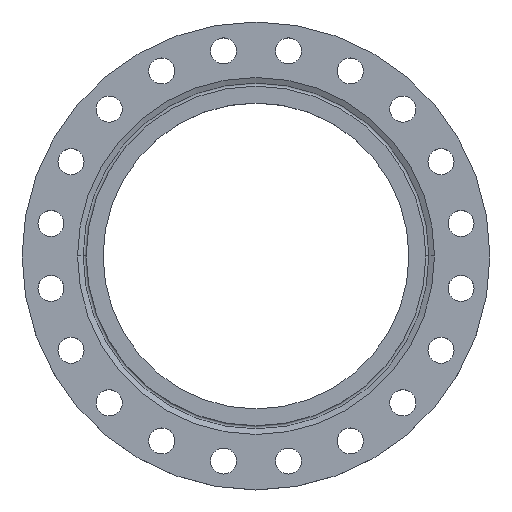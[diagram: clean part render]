
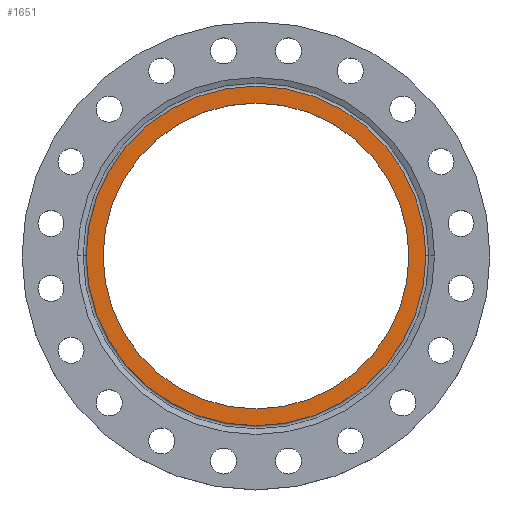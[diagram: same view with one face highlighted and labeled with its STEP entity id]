
A CAD part, top view. The second image highlights one B-rep face of the part: STEP entity #1651.
In plain terms, the highlighted planar face has unit normal (0, 0, 1).
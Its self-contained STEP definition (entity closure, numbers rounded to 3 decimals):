
#36 = DIRECTION ( 'NONE',  ( 0., 0., 1. ) ) ;
#90 = CARTESIAN_POINT ( 'NONE',  ( -274., 0., 0. ) ) ;
#124 = CARTESIAN_POINT ( 'NONE',  ( 0., 0., 0. ) ) ;
#131 = DIRECTION ( 'NONE',  ( -1., 0., 0. ) ) ;
#194 = FACE_OUTER_BOUND ( 'NONE', #426, .T. ) ;
#196 = DIRECTION ( 'NONE',  ( 0., 0., 1. ) ) ;
#243 = CIRCLE ( 'NONE', #256, 246.752 ) ;
#256 = AXIS2_PLACEMENT_3D ( 'NONE', #124, #769, #1418 ) ;
#366 = CARTESIAN_POINT ( 'NONE',  ( 274., 0., 0. ) ) ;
#426 = EDGE_LOOP ( 'NONE', ( #1388, #1341 ) ) ;
#635 = EDGE_CURVE ( 'NONE', #1109, #666, #243, .T. ) ;
#643 = AXIS2_PLACEMENT_3D ( 'NONE', #945, #1566, #131 ) ;
#666 = VERTEX_POINT ( 'NONE', #1100 ) ;
#682 = CIRCLE ( 'NONE', #753, 274. ) ;
#684 = DIRECTION ( 'NONE',  ( 1., 0., 0. ) ) ;
#737 = CARTESIAN_POINT ( 'NONE',  ( 0., 0., 0. ) ) ;
#753 = AXIS2_PLACEMENT_3D ( 'NONE', #737, #1386, #1961 ) ;
#769 = DIRECTION ( 'NONE',  ( 0., 0., 1. ) ) ;
#776 = VERTEX_POINT ( 'NONE', #366 ) ;
#843 = PLANE ( 'NONE',  #1519 ) ;
#847 = DIRECTION ( 'NONE',  ( 1., 0., 0. ) ) ;
#880 = VERTEX_POINT ( 'NONE', #90 ) ;
#881 = EDGE_CURVE ( 'NONE', #776, #880, #682, .T. ) ;
#923 = EDGE_LOOP ( 'NONE', ( #1557, #1452 ) ) ;
#945 = CARTESIAN_POINT ( 'NONE',  ( 0., 0., 0. ) ) ;
#1012 = CIRCLE ( 'NONE', #1021, 246.752 ) ;
#1021 = AXIS2_PLACEMENT_3D ( 'NONE', #1633, #196, #847 ) ;
#1100 = CARTESIAN_POINT ( 'NONE',  ( -246.752, 0., 0. ) ) ;
#1109 = VERTEX_POINT ( 'NONE', #1897 ) ;
#1183 = EDGE_CURVE ( 'NONE', #666, #1109, #1012, .T. ) ;
#1341 = ORIENTED_EDGE ( 'NONE', *, *, #881, .F. ) ;
#1386 = DIRECTION ( 'NONE',  ( 0., 0., -1. ) ) ;
#1388 = ORIENTED_EDGE ( 'NONE', *, *, #1946, .F. ) ;
#1418 = DIRECTION ( 'NONE',  ( 1., 0., 0. ) ) ;
#1452 = ORIENTED_EDGE ( 'NONE', *, *, #1183, .F. ) ;
#1486 = CARTESIAN_POINT ( 'NONE',  ( 0., 0., 0. ) ) ;
#1519 = AXIS2_PLACEMENT_3D ( 'NONE', #1486, #36, #684 ) ;
#1557 = ORIENTED_EDGE ( 'NONE', *, *, #635, .F. ) ;
#1566 = DIRECTION ( 'NONE',  ( 0., 0., -1. ) ) ;
#1618 = CIRCLE ( 'NONE', #643, 274. ) ;
#1630 = FACE_BOUND ( 'NONE', #923, .T. ) ;
#1633 = CARTESIAN_POINT ( 'NONE',  ( 0., 0., 0. ) ) ;
#1651 = ADVANCED_FACE ( 'NONE', ( #1630, #194 ), #843, .T. ) ;
#1897 = CARTESIAN_POINT ( 'NONE',  ( 246.752, 0., 0. ) ) ;
#1946 = EDGE_CURVE ( 'NONE', #880, #776, #1618, .T. ) ;
#1961 = DIRECTION ( 'NONE',  ( -1., 0., 0. ) ) ;
